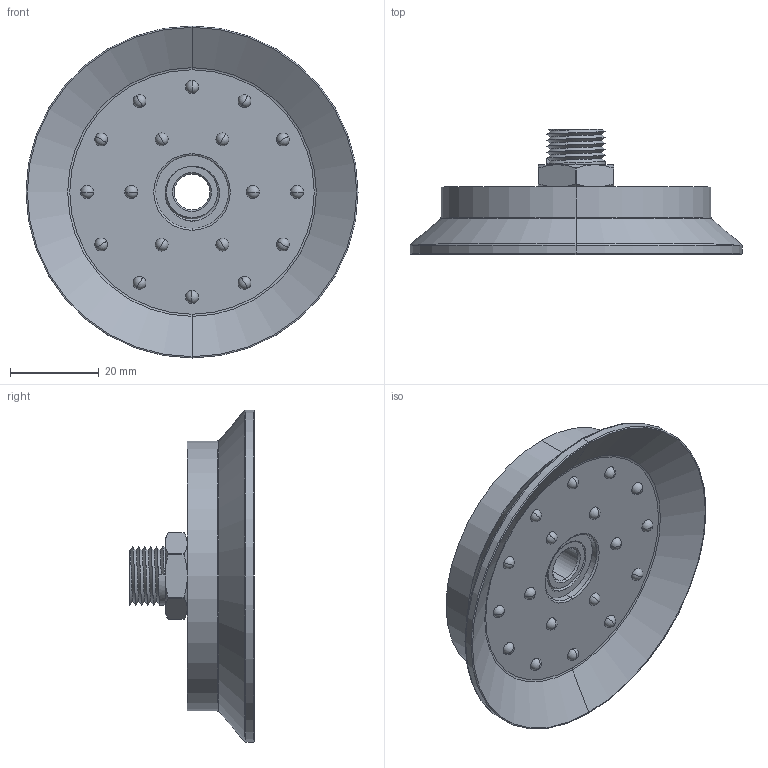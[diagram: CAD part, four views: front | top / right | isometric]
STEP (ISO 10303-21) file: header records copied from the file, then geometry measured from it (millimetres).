
FILE_DESCRIPTION (( 'STEP AP203' ), '1' );
FILE_NAME ('7SB_75--M14.STEP', '2018-07-05T08:26:53', ( '' ), ( '' ), 'SwSTEP 2.0', 'SolidWorks 2016', '' );
FILE_SCHEMA (( 'CONFIG_CONTROL_DESIGN' ));
Length unit declared in the file: millimetre
Products named in the file (1): 7SB_75--M14
Bounding box: 75.03 x 28.19 x 75.03 mm (x, y, z)
Volume: 34681.2 mm3; surface area: 23532 mm2
Topology: 3 solids, 3 shells, 135 faces, 388 edges, 245 vertices
Faces by surface type: cylinder 44, sphere 36, cone 24, plane 17, torus 10, bspline 4
Entity records: 7611 total; most frequent: CARTESIAN_POINT 4454, DIRECTION 669, ORIENTED_EDGE 632, EDGE_CURVE 316, AXIS2_PLACEMENT_3D 298, VERTEX_POINT 209, CIRCLE 166, EDGE_LOOP 163
